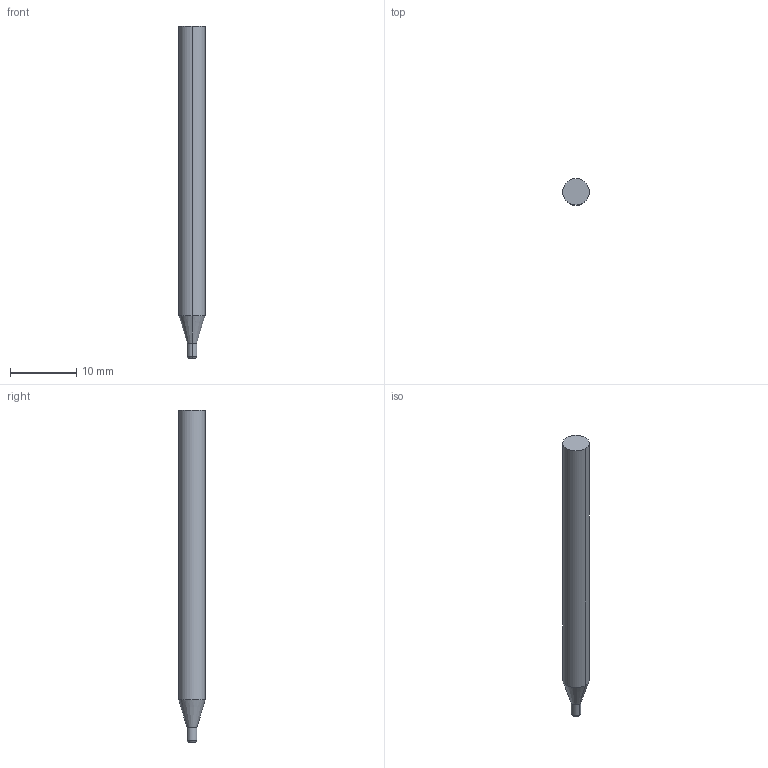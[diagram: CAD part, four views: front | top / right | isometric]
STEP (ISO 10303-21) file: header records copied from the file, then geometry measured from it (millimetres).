
FILE_DESCRIPTION((' '),'2;1');
FILE_NAME( '3MVSM0150R.20AH.stp', '2026-01-21T19:27:23', (' '), ('--- Datakit www.datakit.com---'), ' Datakit CrossCadWare V2025.4 Sep 19 2025', 'Mastercam 2027', ' ');
FILE_SCHEMA(('AUTOMOTIVE_DESIGN { 1 0 10303 214 1 1 1 1 }'));
Length unit declared in the file: inch
Products named in the file (1): 3MVSM0150R
Bounding box: 4 x 4 x 50 mm (x, y, z)
Volume: 578.7 mm3; surface area: 610.2 mm2
Topology: 1 solids, 1 shells, 10 faces, 18 edges, 10 vertices
Faces by surface type: cylinder 4, plane 2, torus 2, cone 2
Entity records: 318 total; most frequent: DIRECTION 60, CARTESIAN_POINT 43, ORIENTED_EDGE 36, AXIS2_PLACEMENT_3D 27, EDGE_CURVE 18, CIRCLE 12, VERTEX_POINT 10, EDGE_LOOP 10
